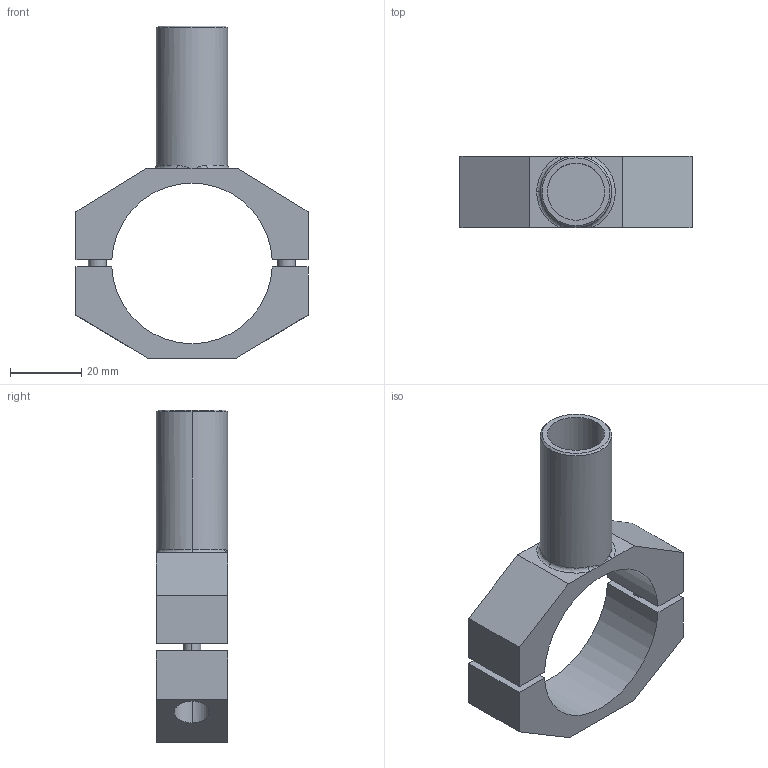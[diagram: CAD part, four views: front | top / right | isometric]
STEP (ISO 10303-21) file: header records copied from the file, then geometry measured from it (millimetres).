
FILE_DESCRIPTION (( 'STEP AP214' ), '1' );
FILE_NAME ('SCE1-NS20.STEP', '2019-11-07T06:32:43', ( '微软用户' ), ( '微软中国' ), 'SwSTEP 2.0', 'SolidWorks 2016', '' );
FILE_SCHEMA (( 'AUTOMOTIVE_DESIGN' ));
Length unit declared in the file: millimetre
Products named in the file (1): SCE1-NS20
Bounding box: 65 x 20 x 93 mm (x, y, z)
Volume: 29792.8 mm3; surface area: 16945.2 mm2
Topology: 6 solids, 6 shells, 482 faces, 1374 edges, 901 vertices
Faces by surface type: plane 427, cylinder 34, bspline 11, cone 10
Entity records: 21676 total; most frequent: CARTESIAN_POINT 3419, DIRECTION 2740, ORIENTED_EDGE 2732, EDGE_CURVE 1366, AXIS2_PLACEMENT_3D 922, VERTEX_POINT 901, VECTOR 896, LINE 896
